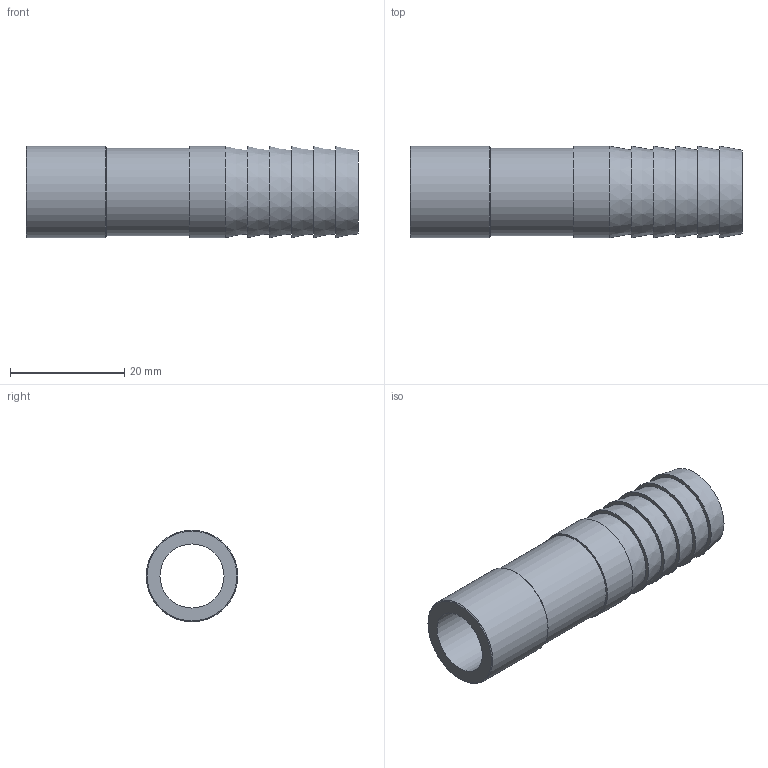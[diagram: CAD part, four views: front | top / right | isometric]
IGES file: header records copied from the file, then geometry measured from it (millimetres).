
Global section: file name: 053600016.ipt; native system: Autodesk Inventor 2015; preprocessor: unknown; author: KIM; date: 20171207.165452; units: millimetre
Bounding box: 58 x 16 x 16 mm (x, y, z)
Volume: 5331.3 mm3; surface area: 5252.9 mm2
Topology: 1 solids, 1 shells, 21 faces, 35 edges, 23 vertices
Faces by surface type: plane 9, cone 8, cylinder 3, revolution 1
Full cylindrical faces by diameter (mm): 15.36 x1, 16 x2
